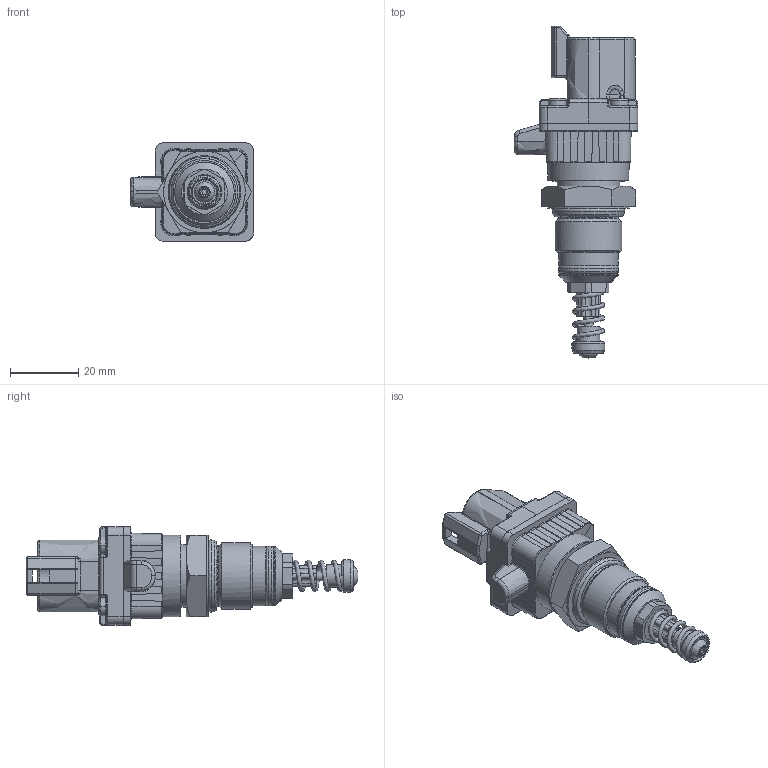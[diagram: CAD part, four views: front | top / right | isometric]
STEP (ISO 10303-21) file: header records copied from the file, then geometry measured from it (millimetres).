
FILE_DESCRIPTION((''),'2;1');
FILE_NAME('U:\Users\r.stiegele\30016500_DG062-20.stp', '2015-07-23T15:51:27',('User'),('SDRC'),'I-DEAS Master Series 9','UNIX', 'Yes');
FILE_SCHEMA(('AUTOMOTIVE_DESIGN { 1 0 10303 214 1 1 1 1 }'));
Length unit declared in the file: millimetre
Products named in the file (1): 30016500_DG062-20
Bounding box: 36.3 x 97.61 x 29 mm (x, y, z)
Volume: 28047.6 mm3; surface area: 11980 mm2
Topology: 1 solids, 9 shells, 1632 faces, 4188 edges, 2655 vertices
Faces by surface type: bspline 1632
Entity records: 68634 total; most frequent: CARTESIAN_POINT 44194, ORIENTED_EDGE 8308, EDGE_CURVE 4154, VERTEX_POINT 2653, B_SPLINE_CURVE_WITH_KNOTS 1844, EDGE_LOOP 1759, FACE_OUTER_BOUND 1632, ADVANCED_FACE 1632
